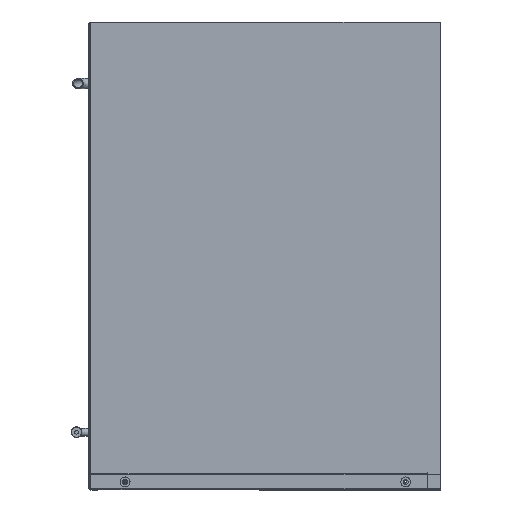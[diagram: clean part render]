
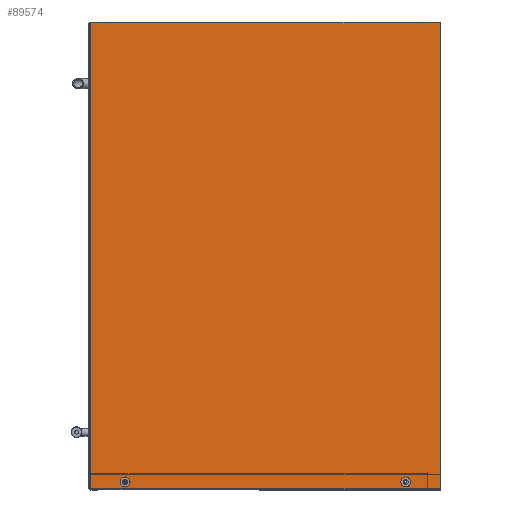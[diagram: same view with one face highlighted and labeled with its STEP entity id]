
A CAD part, left-side view. The second image highlights one B-rep face of the part: STEP entity #89574.
In plain terms, the highlighted planar face has unit normal (-1, 0, 0) as drawn and (1, 0, 0) by its records, which use the part's own axes.
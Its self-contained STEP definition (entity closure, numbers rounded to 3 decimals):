
#911=LINE('',#122053,#13165);
#940=LINE('',#122126,#13194);
#941=LINE('',#122128,#13195);
#942=LINE('',#122130,#13196);
#943=LINE('',#122132,#13197);
#944=LINE('',#122134,#13198);
#945=LINE('',#122136,#13199);
#946=LINE('',#122138,#13200);
#13165=VECTOR('',#100171,1000.);
#13194=VECTOR('',#100232,1000.);
#13195=VECTOR('',#100233,1000.);
#13196=VECTOR('',#100234,1000.);
#13197=VECTOR('',#100235,1000.);
#13198=VECTOR('',#100236,1000.);
#13199=VECTOR('',#100237,1000.);
#13200=VECTOR('',#100238,1000.);
#26355=ORIENTED_EDGE('',*,*,#51214,.F.);
#26356=ORIENTED_EDGE('',*,*,#51215,.F.);
#26357=ORIENTED_EDGE('',*,*,#51216,.F.);
#26358=ORIENTED_EDGE('',*,*,#51217,.T.);
#26359=ORIENTED_EDGE('',*,*,#51218,.T.);
#26360=ORIENTED_EDGE('',*,*,#51219,.F.);
#26361=ORIENTED_EDGE('',*,*,#51220,.F.);
#26362=ORIENTED_EDGE('',*,*,#51221,.F.);
#26363=ORIENTED_EDGE('',*,*,#51222,.F.);
#26364=ORIENTED_EDGE('',*,*,#51178,.T.);
#51178=EDGE_CURVE('',#63731,#63729,#911,.T.);
#51214=EDGE_CURVE('',#63757,#63757,#71965,.T.);
#51215=EDGE_CURVE('',#63758,#63758,#71966,.T.);
#51216=EDGE_CURVE('',#63759,#63729,#940,.F.);
#51217=EDGE_CURVE('',#63759,#63760,#941,.T.);
#51218=EDGE_CURVE('',#63760,#63761,#942,.F.);
#51219=EDGE_CURVE('',#63762,#63761,#943,.T.);
#51220=EDGE_CURVE('',#63763,#63762,#944,.F.);
#51221=EDGE_CURVE('',#63764,#63763,#945,.F.);
#51222=EDGE_CURVE('',#63731,#63764,#946,.T.);
#63729=VERTEX_POINT('',#122051);
#63731=VERTEX_POINT('',#122054);
#63757=VERTEX_POINT('',#122123);
#63758=VERTEX_POINT('',#122125);
#63759=VERTEX_POINT('',#122127);
#63760=VERTEX_POINT('',#122129);
#63761=VERTEX_POINT('',#122131);
#63762=VERTEX_POINT('',#122133);
#63763=VERTEX_POINT('',#122135);
#63764=VERTEX_POINT('',#122137);
#71965=CIRCLE('',#94376,6.001);
#71966=CIRCLE('',#94377,6.001);
#72545=EDGE_LOOP('',(#26355));
#72546=EDGE_LOOP('',(#26356));
#72547=EDGE_LOOP('',(#26357,#26358,#26359,#26360,#26361,#26362,#26363,#26364));
#79109=FACE_BOUND('',#72545,.T.);
#79110=FACE_BOUND('',#72546,.T.);
#79111=FACE_BOUND('',#72547,.T.);
#85351=PLANE('',#94375);
#89574=ADVANCED_FACE('',(#79109,#79110,#79111),#85351,.F.);
#94375=AXIS2_PLACEMENT_3D('',#122121,#100226,#100227);
#94376=AXIS2_PLACEMENT_3D('',#122122,#100228,#100229);
#94377=AXIS2_PLACEMENT_3D('',#122124,#100230,#100231);
#100171=DIRECTION('',(0.,-1.,0.));
#100226=DIRECTION('',(-1.,0.,0.));
#100227=DIRECTION('',(0.,0.,1.));
#100228=DIRECTION('',(1.,0.,0.));
#100229=DIRECTION('',(0.,-1.,0.));
#100230=DIRECTION('',(1.,0.,0.));
#100231=DIRECTION('',(0.,-1.,0.));
#100232=DIRECTION('',(0.,0.,-1.));
#100233=DIRECTION('',(0.,1.,0.));
#100234=DIRECTION('',(0.,0.,1.));
#100235=DIRECTION('',(0.,-1.,0.));
#100236=DIRECTION('',(0.,0.,1.));
#100237=DIRECTION('',(0.,1.,0.));
#100238=DIRECTION('',(0.,0.,-1.));
#122051=CARTESIAN_POINT('',(342.1,-211.748,564.998));
#122053=CARTESIAN_POINT('',(342.1,211.75,564.998));
#122054=CARTESIAN_POINT('',(342.1,211.748,564.998));
#122121=CARTESIAN_POINT('',(342.1,211.75,565.));
#122122=CARTESIAN_POINT('',(342.1,-170.,8.542));
#122123=CARTESIAN_POINT('',(342.1,-176.001,8.542));
#122124=CARTESIAN_POINT('',(342.1,170.,8.542));
#122125=CARTESIAN_POINT('',(342.1,164.,8.542));
#122126=CARTESIAN_POINT('',(342.1,-211.748,0.));
#122127=CARTESIAN_POINT('',(342.1,-211.748,0.804));
#122128=CARTESIAN_POINT('',(342.1,211.75,0.804));
#122129=CARTESIAN_POINT('',(342.1,-211.746,0.804));
#122130=CARTESIAN_POINT('',(342.1,-211.746,565.));
#122131=CARTESIAN_POINT('',(342.1,-211.746,0.802));
#122132=CARTESIAN_POINT('',(342.1,211.75,0.802));
#122133=CARTESIAN_POINT('',(342.1,211.746,0.802));
#122134=CARTESIAN_POINT('',(342.1,211.746,565.));
#122135=CARTESIAN_POINT('',(342.1,211.746,0.804));
#122136=CARTESIAN_POINT('',(342.1,211.75,0.804));
#122137=CARTESIAN_POINT('',(342.1,211.748,0.804));
#122138=CARTESIAN_POINT('',(342.1,211.748,564.998));
